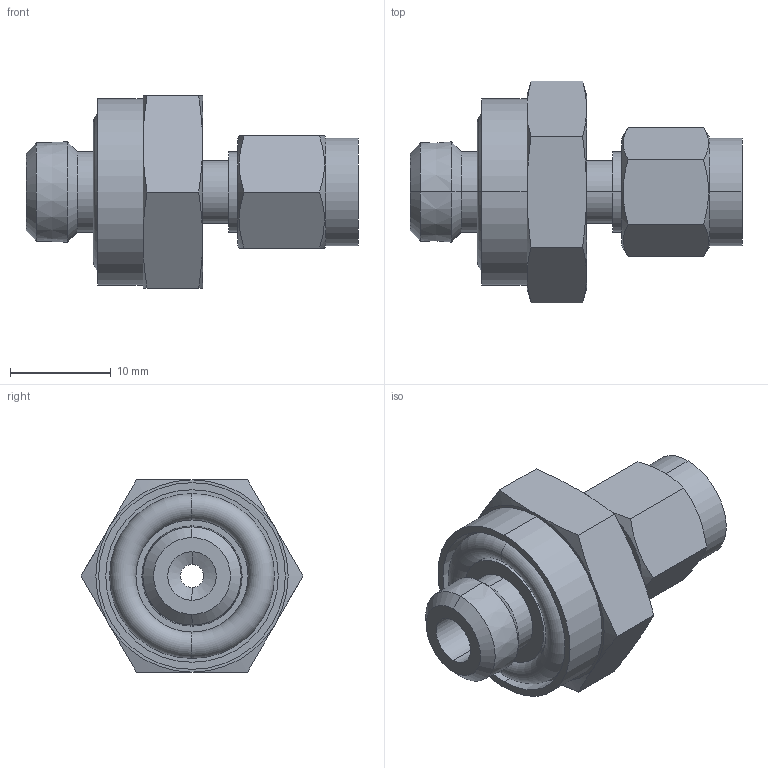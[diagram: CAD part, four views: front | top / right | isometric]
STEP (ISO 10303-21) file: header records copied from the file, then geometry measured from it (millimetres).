
FILE_DESCRIPTION (( 'STEP AP203' ), '1' );
FILE_NAME ('DCM02-02 SS.STEP', '2009-09-08T04:57:10', ( ' ' ), ( '' ), 'SwSTEP 2.0', 'SolidWorks 2008', '' );
FILE_SCHEMA (( 'CONFIG_CONTROL_DESIGN' ));
Length unit declared in the file: millimetre
Products named in the file (1): DCM02-02 SS
Bounding box: 32.9 x 22 x 19.05 mm (x, y, z)
Volume: 4434.5 mm3; surface area: 3042.7 mm2
Topology: 2 solids, 2 shells, 70 faces, 152 edges, 92 vertices
Faces by surface type: cone 24, plane 22, cylinder 20, torus 4
Entity records: 2135 total; most frequent: CARTESIAN_POINT 547, DIRECTION 322, ORIENTED_EDGE 304, EDGE_CURVE 152, AXIS2_PLACEMENT_3D 139, VERTEX_POINT 92, EDGE_LOOP 80, FACE_OUTER_BOUND 70
